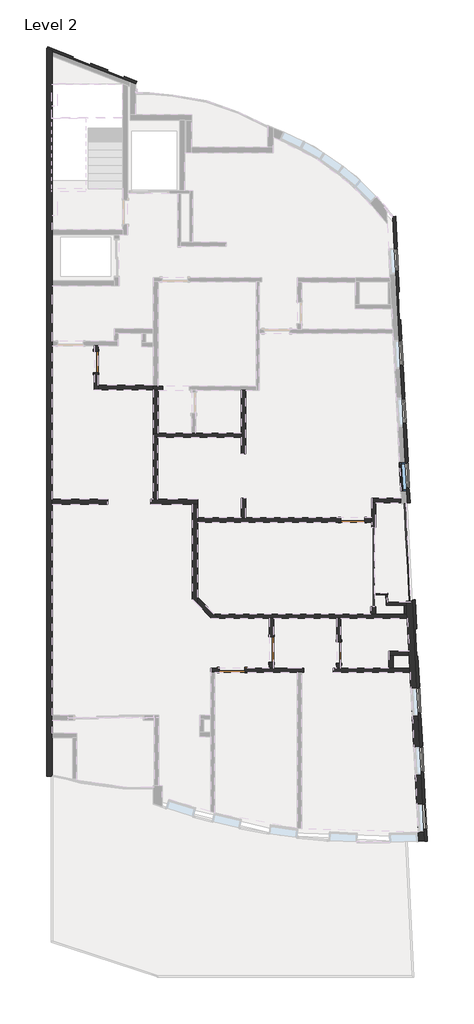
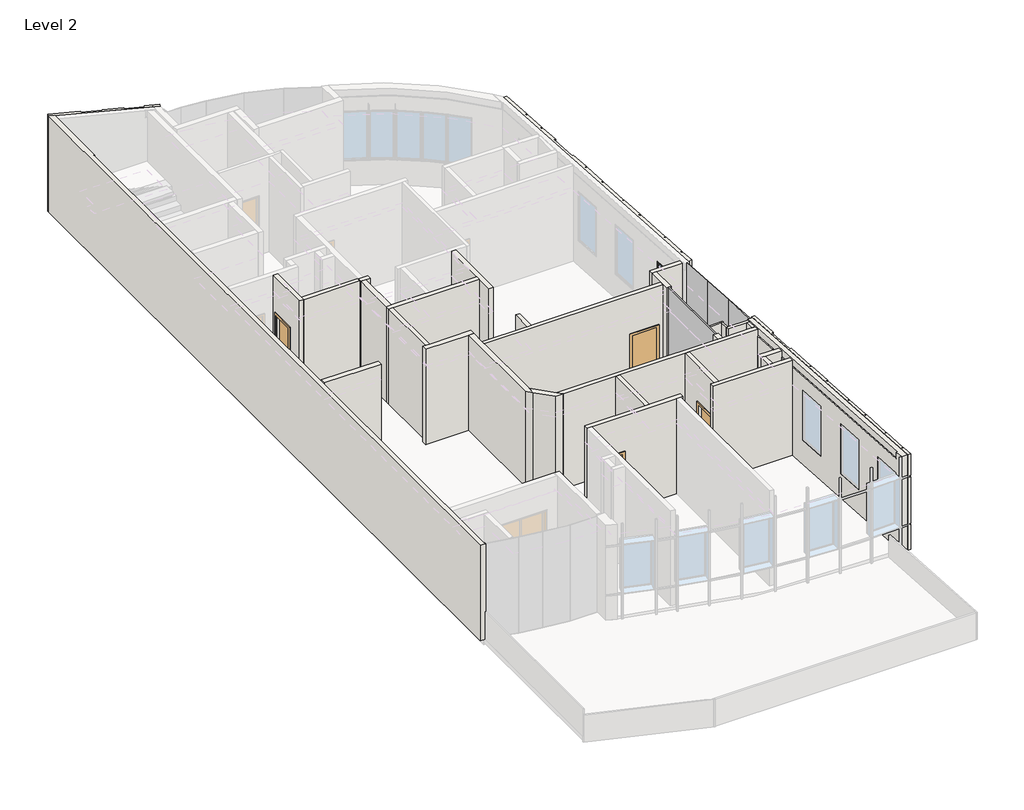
# One storey, part 2 of 5: 31 walls, 5 doors, 4 plates, 1 window.
"""IFC4 building model written with IfcOpenShell, lengths in millimetres."""

from ifc_helpers import new_model, si_unit, frame, origin, place, context, project, spatial, polyline, circle_curve, outline, extrude, faceted_brep, transform, mapped, element, save
from ifc_brep_helpers import plane_surface, cylinder_surface, revolved_surface, advanced_brep
from components import m_single_flush_0762_x_2134mm_8c18b9de, m_single_flush_0762_x_2134mm_1533e4c5, m_single_flush_0864_x_2032mm_5b632350, m_single_flush_0915_x_2134mm_138fd904, system_panel_glazed_de1ac752, system_panel_glazed_2b276406, system_panel_glazed_4e3138d7, wall_0bbe5232, wall_beb20d3e, m_fixed_1000_x_1830mm_2_3397196e

model = new_model("IFC4")

# Units and contexts
model_context = context("Model", 3, world=origin())
ifc_project = project(units=[si_unit("LENGTHUNIT", "METRE", prefix="MILLI")], contexts=[model_context])

# Site, building, storey
site = spatial("IfcSite", under=ifc_project)
building = spatial("IfcBuilding", under=site)
storey = spatial("IfcBuildingStorey", under=building, Name="Level 2", Elevation=8000.0)

# Doors
placement = place(None, origin())
m_single_flush_0762_x_2134mm_shape = m_single_flush_0762_x_2134mm_8c18b9de(model_context)
element("IfcDoor", 1, ObjectType="M_Single-Flush : 0762 x 2134mm", at=placement, inside=storey, context=model_context, shape_type="MappedRepresentation", body=[
    mapped(m_single_flush_0762_x_2134mm_shape, transform((1524.9578776, 3975.8830582, 8000.0), x_axis=(0.0, 1.0, 0.0), y_axis=(-1.0, 0.0, 0.0), z_axis=(0.0, 0.0, 1.0))),
])
m_single_flush_0762_x_2134mm_2_shape = m_single_flush_0762_x_2134mm_1533e4c5(model_context)
element("IfcDoor", 2, ObjectType="M_Single-Flush : 0762 x 2134mm", at=placement, inside=storey, context=model_context, shape_type="MappedRepresentation", body=[
    mapped(m_single_flush_0762_x_2134mm_2_shape, transform((10205.2907737, -6412.7981953, 8000.0), x_axis=(0.0, -1.0, 0.0), y_axis=(1.0, 0.0, 0.0), z_axis=(0.0, 0.0, 1.0))),
])
m_single_flush_0864_x_2032mm_shape = m_single_flush_0864_x_2032mm_5b632350(model_context)
element("IfcDoor", 3, ObjectType="M_Single-Flush : 0864 x 2032mm", at=placement, inside=storey, context=model_context, shape_type="MappedRepresentation", body=[
    mapped(m_single_flush_0864_x_2032mm_shape, transform((10697.9578778, -1678.9547298, 8000.0), x_axis=(1.0, 0.0, 0.0), y_axis=(0.0, 1.0, 0.0), z_axis=(0.0, 0.0, 1.0))),
])
m_single_flush_0915_x_2134mm_shape = m_single_flush_0915_x_2134mm_138fd904(model_context)
element("IfcDoor", 4, ObjectType="M_Single-Flush : 0915 x 2134mm", at=placement, inside=storey, context=model_context, shape_type="MappedRepresentation", body=[
    mapped(m_single_flush_0915_x_2134mm_shape, transform((6387.7907737, -7048.7981953, 8000.0), x_axis=(-1.0, 0.0, 0.0), y_axis=(0.0, -1.0, 0.0), z_axis=(0.0, 0.0, 1.0))),
])
element("IfcDoor", 5, ObjectType="M_Single-Flush : 0915 x 2134mm", at=placement, inside=storey, context=model_context, shape_type="MappedRepresentation", body=[
    mapped(m_single_flush_0915_x_2134mm_shape, transform((7795.2909314, -6316.2981953, 8000.0), x_axis=(0.0, -1.0, 0.0), y_axis=(1.0, 0.0, 0.0), z_axis=(0.0, 0.0, 1.0))),
])

# Plates
system_panel_glazed_shape = system_panel_glazed_de1ac752(model_context)
element("IfcPlate", 6, ObjectType="System Panel : Glazed", at=placement, inside=storey, context=model_context, shape_type="MappedRepresentation", body=[
    mapped(system_panel_glazed_shape, transform((12744.4041239, -4004.5629241, 8000.0), x_axis=(-0.05083502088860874, 0.9987070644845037, 0.0), y_axis=(-0.9987070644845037, -0.05083502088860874, 0.0), z_axis=(0.0, 0.0, 1.0))),
])
element("IfcPlate", 7, ObjectType="System Panel : Glazed", at=placement, inside=storey, context=model_context, shape_type="MappedRepresentation", body=[
    mapped(system_panel_glazed_shape, transform((12685.4354997, -2846.0627293, 8000.0), x_axis=(-0.05083502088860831, 0.9987070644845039, 0.0), y_axis=(-0.9987070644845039, -0.05083502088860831, 0.0), z_axis=(0.0, 0.0, 1.0))),
])
system_panel_glazed_2_shape = system_panel_glazed_2b276406(model_context)
element("IfcPlate", 8, ObjectType="System Panel : Glazed", at=placement, inside=storey, context=model_context, shape_type="MappedRepresentation", body=[
    mapped(system_panel_glazed_2_shape, transform((12626.3225461, -1684.727034, 8000.0), x_axis=(-0.05083502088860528, 0.998707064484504, 0.0), y_axis=(-0.998707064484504, -0.05083502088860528, 0.0), z_axis=(0.0, 0.0, 1.0))),
])
system_panel_glazed_3_shape = system_panel_glazed_4e3138d7(model_context)
element("IfcPlate", 9, ObjectType="System Panel : Glazed", at=placement, inside=storey, context=model_context, shape_type="MappedRepresentation", body=[
    mapped(system_panel_glazed_3_shape, transform((11490.9685725, -3358.899384, 8000.0), x_axis=(0.0, 1.0, 0.0), y_axis=(-1.0, 0.0, 0.0), z_axis=(0.0, 0.0, 1.0))),
])

# Walls
element("IfcWall", 10, ObjectType="Generic - 15cm-granit&gypsum", at=placement, inside=storey, context=model_context, shape_type="Brep", body=[
    faceted_brep([(6719.9578779, 1426.8778064, 8000.0), (5089.9578779, 1426.8778064, 8000.0), (4939.9578779, 1426.8778064, 8000.0), (3749.9578779, 1426.8778064, 8000.0), (3569.9578779, 1426.8778064, 8000.0), (3569.9578779, 1426.8778064, 11500.0), (3749.9578779, 1426.8778064, 11500.0), (4939.9578779, 1426.8778064, 11500.0), (5089.9578779, 1426.8778064, 11500.0), (6719.9578779, 1426.8778064, 11500.0), (6719.9578779, 1276.8778064, 8000.0), (6719.9578779, 1276.8778064, 11500.0), (3719.9578779, 1276.8778064, 11500.0), (3569.9578779, 1276.8778064, 11500.0), (3569.9578779, 1276.8778064, 8000.0), (3719.9578779, 1276.8778064, 8000.0)], [[[0, 1, 2, 3, 4, 5, 6, 7, 8, 9]], [[10, 11, 12, 13, 14, 15]], [[4, 3, 2, 1, 0, 10, 15, 14]], [[9, 8, 7, 6, 5, 13, 12, 11]], [[0, 9, 11, 10]], [[5, 4, 14, 13]]]),
])
element("IfcWall", 11, ObjectType="Generic - 15cm-granit&gypsum", at=placement, inside=storey, context=model_context, shape_type="Brep", body=[
    faceted_brep([(6719.9578779, 2956.8778064, 8000.0), (6719.9578779, 1426.8778064, 8000.0), (6719.9578779, 1276.8778064, 8000.0), (6719.9578779, 696.0452702, 8000.0), (6719.9578779, 696.0452702, 11500.0), (6719.9578779, 1276.8778064, 11500.0), (6719.9578779, 1426.8778064, 11500.0), (6719.9578779, 2956.8778064, 11500.0), (6869.9578779, 2956.8778064, 8000.0), (6869.9578779, 2956.8778064, 11500.0), (6869.9578779, 696.0452702, 11500.0), (6869.9578779, 696.0452702, 8000.0)], [[[0, 1, 2, 3, 4, 5, 6, 7]], [[8, 9, 10, 11]], [[3, 2, 1, 0, 8, 11]], [[4, 3, 11, 10]], [[7, 6, 5, 4, 10, 9]], [[0, 7, 9, 8]]]),
])
element("IfcWall", 12, ObjectType="Generic - 15cm-gypsu-2boith", at=placement, inside=storey, context=model_context, shape_type="Brep", body=[
    faceted_brep([(11349.9578778, -1603.9547298, 8000.0), (11129.9578778, -1603.9547298, 8000.0), (11129.9578778, -1603.9547298, 10032.0), (10265.9578778, -1603.9547298, 10032.0), (10265.9578778, -1603.9547298, 8000.0), (6869.9578779, -1603.9547298, 8000.0), (6719.9578779, -1603.9547298, 8000.0), (5149.9578778, -1603.9547298, 8000.0), (5149.9578778, -1603.9547298, 11500.0), (6719.9578779, -1603.9547298, 11500.0), (6869.9578779, -1603.9547298, 11500.0), (11349.9578778, -1603.9547298, 11500.0), (11129.9578778, -1753.9547298, 10032.0), (11129.9578778, -1753.9547298, 8000.0), (11349.9578778, -1753.9547298, 8000.0), (11349.9578778, -1753.9547298, 11500.0), (5149.9578778, -1753.9547298, 11500.0), (5149.9578778, -1753.9547298, 8000.0), (10265.9578778, -1753.9547298, 8000.0), (10265.9578778, -1753.9547298, 10032.0)], [[[0, 1, 2, 3, 4, 5, 6, 7, 8, 9, 10, 11]], [[12, 13, 14, 15, 16, 17, 18, 19]], [[18, 17, 7, 6, 5, 4]], [[14, 13, 1, 0]], [[11, 10, 9, 8, 16, 15]], [[0, 11, 15, 14]], [[8, 7, 17, 16]], [[2, 1, 13, 12]], [[3, 2, 12, 19]], [[4, 3, 19, 18]]]),
])
element("IfcWall", 13, ObjectType="Generic - 15cm-gypsu-2boith", at=placement, inside=storey, context=model_context, shape_type="Brep", body=[
    faceted_brep([(12423.9334548, -903.8603265, 8000.0), (11379.9578778, -903.8603265, 8000.0), (11379.9578778, -903.8603265, 11500.0), (12423.9334548, -903.8603265, 11500.0), (12423.9334548, -1053.8603265, 8000.0), (12423.9334548, -1053.8603265, 11500.0), (11529.9578778, -1053.8603265, 11500.0), (11379.9578778, -1053.8603265, 11500.0), (11379.9578778, -1053.8603265, 8000.0), (11529.9578778, -1053.8603265, 8000.0)], [[[0, 1, 2, 3]], [[4, 5, 6, 7, 8, 9]], [[1, 0, 4, 9, 8]], [[3, 2, 7, 6, 5]], [[0, 3, 5, 4]], [[2, 1, 8, 7]]]),
])
element("IfcWall", 14, ObjectType="Generic - 15cm-gypsu-2boith", at=placement, inside=storey, context=model_context, shape_type="SweptSolid", body=[
    extrude(outline(polyline([(11379.9578778, -1933.9547288), (11379.9578778, -1053.8603265), (11529.9578778, -1053.8603265), (11529.9578778, -1933.9547288), (11379.9578778, -1933.9547288)])), frame((0.0, 0.0, 8000.0), z_axis=(0.0, 0.0, 1.0), x_axis=(1.0, 0.0, 0.0)), (0.0, 0.0, 1.0), 3500.0),
])
element("IfcWall", 15, ObjectType="Generic - 15cm-gypsu-2boith", at=placement, inside=storey, context=model_context, shape_type="SweptSolid", body=[
    extrude(outline(polyline([(3569.9578779, -933.1221936), (3569.9578779, 1276.8778064), (3719.9578779, 1276.8778064), (3719.9578779, -933.1221936), (3569.9578779, -933.1221936)])), frame((0.0, 0.0, 8000.0), z_axis=(0.0, 0.0, 1.0), x_axis=(1.0, 0.0, 0.0)), (0.0, 0.0, 1.0), 3500.0),
])
element("IfcWall", 16, ObjectType="Generic - 18cm-gypsu-2boith 2", at=placement, inside=storey, context=model_context, shape_type="Brep", body=[
    faceted_brep([(5149.9578778, -933.1221936, 8000.0), (3719.9578779, -933.1221936, 8000.0), (3569.9578779, -933.1221936, 8000.0), (3473.9578779, -933.1221936, 8000.0), (3473.9578779, -933.1221936, 11500.0), (3569.9578779, -933.1221936, 11500.0), (3719.9578779, -933.1221936, 11500.0), (5149.9578778, -933.1221936, 11500.0), (5149.9578778, -1113.1221936, 8000.0), (5149.9578778, -1113.1221936, 11500.0), (4969.9578778, -1113.1221936, 11500.0), (3473.9578779, -1113.1221936, 11500.0), (3473.9578779, -1113.1221936, 8000.0), (4969.9578778, -1113.1221936, 8000.0)], [[[0, 1, 2, 3, 4, 5, 6, 7]], [[8, 9, 10, 11, 12, 13]], [[3, 2, 1, 0, 8, 13, 12]], [[4, 3, 12, 11]], [[7, 6, 5, 4, 11, 10, 9]], [[0, 7, 9, 8]]]),
])
element("IfcWall", 17, ObjectType="Generic - 18cm-gypsu-2boith 2", at=placement, inside=storey, context=model_context, shape_type="Brep", body=[
    faceted_brep([(4969.9578778, -1113.1221936, 8000.0), (4969.9578778, -4517.9715169, 8000.0), (4969.9578778, -4517.9715169, 11500.0), (4969.9578778, -1113.1221936, 11500.0), (5149.9578778, -1113.1221936, 8000.0), (5149.9578778, -1113.1221936, 11500.0), (5149.9578778, -1603.9547298, 11500.0), (5149.9578778, -1753.9547298, 11500.0), (5149.9578778, -4443.9569428, 11500.0), (5149.9578778, -4699.8400417, 11500.0), (5149.9578778, -4699.8400417, 8000.0), (5149.9578778, -4443.9569428, 8000.0), (5149.9578778, -1753.9547298, 8000.0), (5149.9578778, -1603.9547298, 8000.0)], [[[0, 1, 2, 3]], [[4, 5, 6, 7, 8, 9, 10, 11, 12, 13]], [[1, 0, 4, 13, 12, 11, 10]], [[3, 2, 9, 8, 7, 6, 5]], [[2, 1, 10, 9]], [[0, 3, 5, 4]]]),
])
element("IfcWall", 18, ObjectType="Generic - 18cm-gypsu-2boith 2", at=placement, inside=storey, context=model_context, shape_type="Brep", body=[
    faceted_brep([(5149.9578778, -4699.8400417, 8000.0), (5643.7897147, -5198.7981953, 8000.0), (5643.7897147, -5198.7981953, 11500.0), (5149.9578778, -4699.8400417, 11500.0), (5149.9578778, -4443.9569428, 8000.0), (5149.9578778, -4443.9569428, 11500.0), (5748.5849662, -5048.7981953, 11500.0), (5897.04386, -5198.7981953, 11500.0), (5897.04386, -5198.7981953, 8000.0), (5748.5849662, -5048.7981953, 8000.0)], [[[0, 1, 2, 3]], [[4, 5, 6, 7, 8, 9]], [[1, 0, 4, 9, 8]], [[3, 2, 7, 6, 5]], [[0, 3, 5, 4]], [[2, 1, 8, 7]]]),
])
element("IfcWall", 19, ObjectType="Generic - 15cm-granit&gypsum", at=placement, inside=storey, context=model_context, shape_type="Brep", body=[
    faceted_brep([(12647.2976465, -5048.7981953, 8000.0), (12641.1322496, -5048.7981953, 8000.0), (12541.1322496, -5048.7981953, 8000.0), (11529.9578778, -5048.7981953, 8000.0), (11349.9578778, -5048.7981953, 8000.0), (5748.5849662, -5048.7981953, 8000.0), (5748.5849662, -5048.7981953, 11500.0), (11349.9578778, -5048.7981953, 11500.0), (11529.9578778, -5048.7981953, 11500.0), (12541.1322496, -5048.7981953, 11500.0), (12641.1322496, -5048.7981953, 11500.0), (12647.2976465, -5048.7981953, 11500.0), (12654.9327714, -5198.7981953, 8000.0), (12654.9327714, -5198.7981953, 11500.0), (10280.2907737, -5198.7981953, 11500.0), (10130.2907737, -5198.7981953, 11500.0), (7870.2909314, -5198.7981953, 11500.0), (7720.2909314, -5198.7981953, 11500.0), (5897.04386, -5198.7981953, 11500.0), (5897.04386, -5198.7981953, 8000.0), (7720.2909314, -5198.7981953, 8000.0), (7870.2909314, -5198.7981953, 8000.0), (10130.2907737, -5198.7981953, 8000.0), (10280.2907737, -5198.7981953, 8000.0)], [[[0, 1, 2, 3, 4, 5, 6, 7, 8, 9, 10, 11]], [[12, 13, 14, 15, 16, 17, 18, 19, 20, 21, 22, 23]], [[5, 4, 3, 2, 1, 0, 12, 23, 22, 21, 20, 19]], [[11, 10, 9, 8, 7, 6, 18, 17, 16, 15, 14, 13]], [[6, 5, 19, 18]], [[0, 11, 13, 12]]]),
])
element("IfcWall", 20, ObjectType="Generic - 15cm-gypsu-2boith", at=placement, inside=storey, context=model_context, shape_type="SweptSolid", body=[
    extrude(outline(polyline([(-6773.7981953, 10134.0), (-6773.7981953, 8000.0), (-6973.7981953, 8000.0), (-6973.7981953, 11500.0), (-5198.7981953, 11500.0), (-5198.7981953, 8000.0), (-5858.7981953, 8000.0), (-5858.7981953, 10134.0), (-6773.7981953, 10134.0)])), frame((7720.2909314, 0.0, 0.0), z_axis=(1.0, 0.0, 0.0), x_axis=(0.0, 1.0, 0.0)), (0.0, 0.0, 1.0), 150.0),
])
element("IfcWall", 21, ObjectType="Generic - 15cm-granit&gypsum", at=placement, inside=storey, context=model_context, shape_type="Brep", body=[
    faceted_brep([(12745.2817489, -6973.7981953, 8000.0), (12147.4732011, -6973.7981953, 8000.0), (11997.4732011, -6973.7981953, 8000.0), (10280.2907737, -6973.7981953, 8000.0), (10130.2907737, -6973.7981953, 8000.0), (10005.6168737, -6973.7981953, 8000.0), (10005.6168737, -6973.7981953, 11500.0), (10130.2907737, -6973.7981953, 11500.0), (10280.2907737, -6973.7981953, 11500.0), (11997.4732011, -6973.7981953, 11500.0), (12147.4732011, -6973.7981953, 11500.0), (12745.2817489, -6973.7981953, 11500.0), (12752.9168737, -7123.7981953, 8000.0), (12752.9168737, -7123.7981953, 11500.0), (10005.6168737, -7123.7981953, 11500.0), (10005.6168737, -7123.7981953, 8000.0)], [[[0, 1, 2, 3, 4, 5, 6, 7, 8, 9, 10, 11]], [[12, 13, 14, 15]], [[5, 4, 3, 2, 1, 0, 12, 15]], [[6, 5, 15, 14]], [[11, 10, 9, 8, 7, 6, 14, 13]], [[0, 11, 13, 12]]]),
])
element("IfcWall", 22, ObjectType="Generic - 15cm-gypsu-2boith", at=placement, inside=storey, context=model_context, shape_type="Brep", body=[
    faceted_brep([(12714.7412494, -6373.7981953, 8000.0), (11997.4732011, -6373.7981953, 8000.0), (11997.4732011, -6373.7981953, 11500.0), (12714.7412494, -6373.7981953, 11500.0), (12722.3763743, -6523.7981953, 8000.0), (12722.3763743, -6523.7981953, 11500.0), (12147.4732011, -6523.7981953, 11500.0), (11997.4732011, -6523.7981953, 11500.0), (11997.4732011, -6523.7981953, 8000.0), (12147.4732011, -6523.7981953, 8000.0)], [[[0, 1, 2, 3]], [[4, 5, 6, 7, 8, 9]], [[1, 0, 4, 9, 8]], [[3, 2, 7, 6, 5]], [[0, 3, 5, 4]], [[2, 1, 8, 7]]]),
])
element("IfcWall", 23, ObjectType="Generic - 15cm-gypsu-2boith", at=placement, inside=storey, context=model_context, shape_type="SweptSolid", body=[
    extrude(outline(polyline([(11997.4732011, -6973.7981953), (11997.4732011, -6523.7981953), (12147.4732011, -6523.7981953), (12147.4732011, -6973.7981953), (11997.4732011, -6973.7981953)])), frame((0.0, 0.0, 8000.0), z_axis=(0.0, 0.0, 1.0), x_axis=(1.0, 0.0, 0.0)), (0.0, 0.0, 1.0), 3500.0),
])
element("IfcWall", 24, ObjectType="Generic - 10cm-gypsu-2boith", at=placement, inside=storey, context=model_context, shape_type="Brep", body=[
    faceted_brep([(11904.953185, -4724.0941461, 8000.0), (12541.1322496, -4725.6672919, 8000.0), (12641.1322496, -4725.9145722, 8000.0), (12641.1322496, -4725.9145722, 11500.0), (12541.1322496, -4725.6672919, 11500.0), (11904.953185, -4724.0941461, 11500.0), (11899.8624455, -4624.081252, 8000.0), (11899.8624455, -4624.081252, 11500.0), (11949.9334783, -4624.2050678, 11500.0), (12641.1322496, -4625.9142665, 11500.0), (12641.1322496, -4625.9142665, 8000.0), (11949.9334783, -4624.2050678, 8000.0)], [[[0, 1, 2, 3, 4, 5]], [[6, 7, 8, 9, 10, 11]], [[2, 1, 0, 6, 11, 10]], [[5, 4, 3, 9, 8, 7]], [[3, 2, 10, 9]], [[0, 5, 7, 6]]]),
])
element("IfcWall", 25, ObjectType="Generic - 10cm-gypsu-2boith", at=placement, inside=storey, context=model_context, shape_type="Brep", body=[
    faceted_brep([(12641.1322496, -5048.7981953, 8000.0), (12641.1322496, -4927.672536, 8000.0), (12641.1322496, -4725.9145722, 8000.0), (12641.1322496, -4725.9145722, 11259.0), (12641.1322496, -4725.9145722, 11500.0), (12641.1322496, -5048.7981953, 11500.0), (12541.1322496, -5048.7981953, 8000.0), (12541.1322496, -5048.7981953, 11500.0), (12541.1322496, -4725.6672919, 11500.0), (12541.1322496, -4725.6672919, 8000.0), (12630.8613086, -4725.8891742, 8000.0)], [[[0, 1, 2, 3, 4, 5]], [[6, 7, 8, 9]], [[2, 1, 0, 6, 9, 10]], [[5, 4, 8, 7]], [[4, 3, 2, 10, 9, 8]], [[0, 5, 7, 6]]]),
])
element("IfcWall", 26, ObjectType="Antick", at=placement, inside=storey, context=model_context, shape_type="SweptSolid", body=[
    extrude(outline(polyline([(11899.8624455, -4624.081252), (11885.9208288, -4350.1836358), (11935.856182, -4347.6418848), (11949.9334783, -4624.2050678), (11899.8624455, -4624.081252)])), frame((0.0, 0.0, 8000.0), z_axis=(0.0, 0.0, 1.0), x_axis=(1.0, 0.0, 0.0)), (0.0, 0.0, 1.0), 3500.0),
])
element("IfcWall", 27, ObjectType="Antick", at=placement, inside=storey, context=model_context, shape_type="Brep", body=[
    faceted_brep([(11506.4121443, -4369.5009438, 8000.0), (11885.9208288, -4350.1836358, 8000.0), (11935.856182, -4347.6418848, 8000.0), (11955.8303233, -4346.6251844, 8000.0), (11955.8303233, -4346.6251844, 11500.0), (11935.856182, -4347.6418848, 11500.0), (11885.9208288, -4350.1836358, 11500.0), (11506.4121443, -4369.5009438, 11500.0), (11503.8703933, -4319.5655905, 8000.0), (11503.8703933, -4319.5655905, 11500.0), (11953.2885723, -4296.6898311, 11500.0), (11953.2885723, -4296.6898311, 8000.0)], [[[0, 1, 2, 3, 4, 5, 6, 7]], [[8, 9, 10, 11]], [[3, 2, 1, 0, 8, 11]], [[4, 3, 11, 10]], [[7, 6, 5, 4, 10, 9]], [[0, 7, 9, 8]]]),
])
element("IfcWall", 28, ObjectType="Generic - 18cm-gypsu-2boith 2", at=placement, inside=storey, context=model_context, shape_type="SweptSolid", body=[
    extrude(outline(polyline([(11529.9578778, -4783.8440392), (11529.9578778, -5048.7981953), (11349.9578778, -5048.7981953), (11349.9578778, -4783.8440392), (11529.9578778, -4783.8440392)])), frame((0.0, 0.0, 8000.0), z_axis=(0.0, 0.0, 1.0), x_axis=(1.0, 0.0, 0.0)), (0.0, 0.0, 1.0), 3500.0),
])
element("IfcWall", 29, ObjectType="Generic - 15cm-granit&gypsum", at=placement, inside=storey, context=model_context, shape_type="Brep", body=[
    faceted_brep([(1599.9578776, 4356.8830582, 10134.0), (1599.9578776, 4356.8830582, 8000.0), (1599.9578776, 4556.8830582, 8000.0), (1599.9578776, 4556.8830582, 11500.0), (1599.9578776, 3136.8778064, 11500.0), (1599.9578776, 2986.8778064, 11500.0), (1599.9578776, 2986.8778064, 8000.0), (1599.9578776, 3136.8778064, 8000.0), (1599.9578776, 3594.8830582, 8000.0), (1599.9578776, 3594.8830582, 10134.0), (1449.9578776, 4556.8830582, 8000.0), (1449.9578776, 4356.8830582, 8000.0), (1449.9578776, 4356.8830582, 10134.0), (1449.9578776, 3594.8830582, 10134.0), (1449.9578776, 3594.8830582, 8000.0), (1449.9578776, 2986.8778064, 8000.0), (1449.9578776, 2986.8778064, 11500.0), (1449.9578776, 4556.8830582, 11500.0)], [[[0, 1, 2, 3, 4, 5, 6, 7, 8, 9]], [[10, 11, 12, 13, 14, 15, 16, 17]], [[2, 1, 11, 10]], [[8, 7, 6, 15, 14]], [[5, 4, 3, 17, 16]], [[3, 2, 10, 17]], [[6, 5, 16, 15]], [[12, 11, 1, 0]], [[13, 12, 0, 9]], [[14, 13, 9, 8]]]),
])
element("IfcWall", 30, ObjectType="Generic - 18cm-gypsu-2boith 2", at=placement, inside=storey, context=model_context, shape_type="SweptSolid", body=[
    extrude(outline(polyline([(3569.9578779, 1426.8778064), (3569.9578779, 2956.8778064), (3749.9578779, 2956.8778064), (3749.9578779, 1426.8778064), (3569.9578779, 1426.8778064)])), frame((0.0, 0.0, 8000.0), z_axis=(0.0, 0.0, 1.0), x_axis=(1.0, 0.0, 0.0)), (0.0, 0.0, 1.0), 3500.0),
])
element("IfcWall", 31, ObjectType="Generic - 15cm-granit&gypsum", at=placement, inside=storey, context=model_context, shape_type="SweptSolid", body=[
    extrude(outline(polyline([(1599.9578776, 3136.8778064), (3549.9578779, 3136.8778064), (3549.9578779, 2986.8778064), (1599.9578776, 2986.8778064), (1599.9578776, 3136.8778064)])), frame((0.0, 0.0, 8000.0), z_axis=(0.0, 0.0, 1.0), x_axis=(1.0, 0.0, 0.0)), (0.0, 0.0, 1.0), 3500.0),
])
element("IfcWall", 32, ObjectType="Generic - 18cm-gypsu-2boith 2", at=placement, inside=storey, context=model_context, shape_type="SweptSolid", body=[
    extrude(outline(polyline([(-50.0421304, -933.1221936), (1933.9578781, -933.1221936), (1933.9578781, -1113.1221936), (-50.0421304, -1113.1221936), (-50.0421304, -933.1221936)])), frame((0.0, 0.0, 8000.0), z_axis=(0.0, 0.0, 1.0), x_axis=(1.0, 0.0, 0.0)), (0.0, 0.0, 1.0), 3500.0),
])
element("IfcWall", 33, ObjectType="Generic - 15cm-granit&gypsum", at=placement, inside=storey, context=model_context, shape_type="Brep", body=[
    faceted_brep([(5930.2907737, -6973.7981953, 10134.0), (5930.2907737, -6973.7981953, 8000.0), (5620.2907737, -6973.7981953, 8000.0), (5620.2907737, -6973.7981953, 11500.0), (7720.2909314, -6973.7981953, 11500.0), (7870.2909314, -6973.7981953, 11500.0), (8947.5168737, -6973.7981953, 11500.0), (8947.5168737, -6973.7981953, 8000.0), (7870.2909314, -6973.7981953, 8000.0), (7720.2909314, -6973.7981953, 8000.0), (6845.2907737, -6973.7981953, 8000.0), (6845.2907737, -6973.7981953, 10134.0), (5620.2907737, -7123.7981953, 8000.0), (5770.2907737, -7123.7981953, 8000.0), (5930.2907737, -7123.7981953, 8000.0), (5930.2907737, -7123.7981953, 10134.0), (6845.2907737, -7123.7981953, 10134.0), (6845.2907737, -7123.7981953, 8000.0), (8720.2907737, -7123.7981953, 8000.0), (8870.2907737, -7123.7981953, 8000.0), (8947.5168737, -7123.7981953, 8000.0), (8947.5168737, -7123.7981953, 11500.0), (8870.2907737, -7123.7981953, 11500.0), (8720.2907737, -7123.7981953, 11500.0), (5770.2907737, -7123.7981953, 11500.0), (5620.2907737, -7123.7981953, 11500.0)], [[[0, 1, 2, 3, 4, 5, 6, 7, 8, 9, 10, 11]], [[12, 13, 14, 15, 16, 17, 18, 19, 20, 21, 22, 23, 24, 25]], [[2, 1, 14, 13, 12]], [[10, 9, 8, 7, 20, 19, 18, 17]], [[6, 5, 4, 3, 25, 24, 23, 22, 21]], [[7, 6, 21, 20]], [[3, 2, 12, 25]], [[17, 16, 11, 10]], [[16, 15, 0, 11]], [[15, 14, 1, 0]]]),
])
element("IfcWall", 34, ObjectType="Generic - 15cm-granit&gypsum", at=placement, inside=storey, context=model_context, shape_type="SweptSolid", body=[
    extrude(outline(polyline([(6719.9578779, -1603.9547298), (6719.9578779, -903.9547298), (6869.9578779, -903.9547298), (6869.9578779, -1603.9547298), (6719.9578779, -1603.9547298)])), frame((0.0, 0.0, 8000.0), z_axis=(0.0, 0.0, 1.0), x_axis=(1.0, 0.0, 0.0)), (0.0, 0.0, 1.0), 3500.0),
])
element("IfcWall", 35, ObjectType="Generic - 15cm-granit&gypsum", at=placement, inside=storey, context=model_context, shape_type="Brep", body=[
    faceted_brep([(3899.9578779, 3106.8778064, 8000.0), (3749.9578779, 3106.8778064, 8000.0), (3569.9578779, 3106.8778064, 8000.0), (3569.9578779, 3106.8778064, 11500.0), (3749.9578779, 3106.8778064, 11500.0), (3899.9578779, 3106.8778064, 11500.0), (3899.9578779, 2956.8778064, 8000.0), (3899.9578779, 2956.8778064, 11500.0), (3749.9578779, 2956.8778064, 11500.0), (3569.9578779, 2956.8778064, 11500.0), (3569.9578779, 2956.8778064, 8000.0), (3749.9578779, 2956.8778064, 8000.0)], [[[0, 1, 2, 3, 4, 5]], [[6, 7, 8, 9, 10, 11]], [[2, 1, 0, 6, 11, 10]], [[5, 4, 3, 9, 8, 7]], [[0, 5, 7, 6]], [[3, 2, 10, 9]]]),
])
wall_shape = wall_0bbe5232(model_context)
element("IfcWall", 36, ObjectType="kamposite : kamposite", at=placement, inside=storey, context=model_context, shape_type="MappedRepresentation", body=[
    mapped(wall_shape, transform((-2.0334008, 39.9482826, 2000.0), x_axis=(1.0, 0.0, 0.0), y_axis=(0.0, 1.0, 0.0), z_axis=(0.0, 0.0, 1.0))),
])
wall_2_shape = wall_beb20d3e(model_context)
element("IfcWall", 37, ObjectType="kamposite2 : kamposite2", at=placement, inside=storey, context=model_context, shape_type="MappedRepresentation", body=[
    mapped(wall_2_shape, transform((0.0, 0.0, 2000.0), x_axis=(1.0, 0.0, 0.0), y_axis=(0.0, 1.0, 0.0), z_axis=(0.0, 0.0, 1.0))),
])
element("IfcWall", 38, ObjectType="Generic - 15cm-granit 2", at=placement, inside=storey, context=model_context, shape_type="SweptSolid", body=[
    extrude(outline(polyline([(-6793.7981953, 10134.0), (-6793.7981953, 8000.0), (-6973.7981953, 8000.0), (-6973.7981953, 11500.0), (-5198.7981953, 11500.0), (-5198.7981953, 8000.0), (-6031.7981953, 8000.0), (-6031.7981953, 10134.0), (-6793.7981953, 10134.0)])), frame((10130.2907737, 0.0, 0.0), z_axis=(1.0, 0.0, 0.0), x_axis=(0.0, 1.0, 0.0)), (0.0, 0.0, 1.0), 150.0),
])
element("IfcWall", 39, ObjectType="Generic - 20cm-gypsum", at=placement, inside=storey, context=model_context, shape_type="Brep", body=[
    faceted_brep([(-50.0421304, -10845.40247, 8000.0), (-50.0421304, -9462.1185157, 8000.0), (-50.0421304, -9312.1185157, 8000.0), (-50.0421304, -8842.2362629, 8000.0), (-50.0421304, -8662.2362629, 8000.0), (-50.0421304, -1113.1221936, 8000.0), (-50.0421304, -933.1221936, 8000.0), (-50.0421304, 4556.8830582, 8000.0), (-50.0421304, 4706.8830582, 8000.0), (-50.0421304, 6706.8748838, 8000.0), (-50.0421304, 6886.8748838, 8000.0), (-50.0421304, 8516.8748746, 8000.0), (-50.0421304, 8696.8748746, 8000.0), (-50.0421304, 14901.0479686, 8000.0), (-50.0421304, 15115.5710671, 8000.0), (-50.0421304, 15115.5710671, 11500.0), (-50.0421304, 14901.0479686, 11500.0), (-50.0421304, 12698.7408751, 11500.0), (-50.0421304, 12698.7408751, 11259.0), (-50.0421304, -10787.9093736, 11259.0), (-50.0421304, -10787.9093736, 11500.0), (-50.0421304, -10845.40247, 11500.0), (-250.0421304, 15193.1607555, 8000.0), (-250.0421304, -10845.40247, 8000.0), (-250.0421304, -10845.40247, 11500.0), (-250.0421304, 15193.1607555, 11500.0), (-80.0000039, -10845.40247, 8000.0), (-80.0421304, -10781.5326767, 11500.0), (-80.0421304, 12698.7408751, 11500.0), (-80.0421304, 12698.7408751, 11259.0), (-80.0421304, -10781.5326767, 11259.0)], [[[0, 1, 2, 3, 4, 5, 6, 7, 8, 9, 10, 11, 12, 13, 14, 15, 16, 17, 18, 19, 20, 21]], [[22, 23, 24, 25]], [[14, 13, 12, 11, 10, 9, 8, 7, 6, 5, 4, 3, 2, 1, 0, 26, 23, 22]], [[25, 24, 21, 20, 27, 28, 17, 16, 15]], [[0, 21, 24, 23, 26]], [[15, 14, 22, 25]], [[29, 30, 19, 18]], [[30, 27, 20, 19]], [[30, 29, 28, 27]], [[28, 29, 18, 17]]]),
])
element("IfcWall", 40, ObjectType="Generic - 20cm-gypsum", at=placement, inside=storey, context=model_context, shape_type="AdvancedBrep", body=[
    advanced_brep(
    [(12624.0178131, -4591.441561, 8000.0), (12630.8613086, -4725.8891742, 8000.0), (12630.8613086, -4725.8891742, 11259.0), (12624.0178131, -4591.441561, 11259.0), (12641.1322496, -4927.672536, 8000.0), (12647.2976465, -5048.7981953, 8000.0), (12654.9327714, -5198.7981953, 8000.0), (12714.7412494, -6373.7981953, 8000.0), (12722.3763743, -6523.7981953, 8000.0), (12745.2817489, -6973.7981953, 8000.0), (12752.9168737, -7123.7981953, 8000.0), (13044.0399551, -12843.2151043, 8000.0), (13060.3079076, -13162.8160173, 8000.0), (13060.3079076, -13162.8160173, 8901.1018524), (13059.0369746, -13137.84721, 8901.1018524), (13059.0369746, -13137.84721, 8951.1018524), (13060.3079076, -13162.8160173, 8951.1018524), (13060.3079076, -13162.8160173, 10695.0), (13059.0369746, -13137.84721, 10695.0), (13059.0369746, -13137.84721, 10745.0), (13060.3079076, -13162.8160173, 10745.0), (13060.3079076, -13162.8160173, 11500.0), (13045.5650765, -12873.1777067, 11500.0), (13045.5650765, -12873.1777067, 11259.0), (13044.0399551, -12843.2151043, 11259.0), (12641.1322496, -4927.672536, 11259.0), (13044.1204917, -12844.7973291, 8900.0), (12993.2854708, -11846.0902646, 8900.0), (12993.2854708, -11846.0902646, 10730.0), (13044.1204917, -12844.7973291, 10730.0), (12939.9086989, -10797.4478469, 8900.0), (12889.073678, -9798.7407824, 8900.0), (12889.073678, -9798.7407824, 10730.0), (12939.9086989, -10797.4478469, 10730.0), (12832.6468048, -8690.1759409, 8900.0), (12781.8117839, -7691.4688764, 8900.0), (12781.8117839, -7691.4688764, 10730.0), (12832.6468048, -8690.1759409, 10730.0), (12823.759226, -4581.2745568, 11500.0), (13259.9103282, -13149.9183632, 11500.0), (13259.9103282, -13149.9183632, 10745.0), (13258.6392504, -13124.9467139, 10745.0), (13258.6392504, -13124.9467139, 10695.0), (13259.9103282, -13149.9183632, 10695.0), (13259.9103282, -13149.9183632, 8951.1018524), (13258.6392504, -13124.9467139, 8951.1018524), (13258.6392504, -13124.9467139, 8901.1018524), (13259.9103282, -13149.9183632, 8901.1018524), (13259.9103282, -13149.9183632, 8000.0), (12823.759226, -4581.2745568, 8000.0), (13193.0268837, -11835.9232605, 8900.0), (13243.8619046, -12834.6303249, 8900.0), (13243.8619046, -12834.6303249, 10730.0), (13193.0268837, -11835.9232605, 10730.0), (13088.8150909, -9788.5737783, 8900.0), (13139.6501118, -10787.2808427, 8900.0), (13139.6501118, -10787.2808427, 10730.0), (13088.8150909, -9788.5737783, 10730.0), (12981.5531968, -7681.3018722, 8900.0), (13032.3882177, -8680.0089367, 8900.0), (13032.3882177, -8680.0089367, 10730.0), (12981.5531968, -7681.3018722, 10730.0), (12653.9790251, -4589.9165104, 11500.0), (13075.5106422, -12871.3452698, 11500.0), (12641.1322496, -4725.9145722, 8000.0), (12653.9790251, -4589.9165104, 11259.0), (12641.1322496, -4725.9145722, 11259.0), (13075.5106422, -12871.3452698, 11259.0)],
    [
        (0, 1),
        (1, 2),
        (2, 3),
        (3, 0),
        (4, 5),
        (5, 6),
        (6, 7),
        (7, 8),
        (8, 9),
        (9, 10),
        (10, 11),
        (11, 12),
        (12, 13),
        (13, 14),
        (14, 15),
        (15, 16),
        (16, 17),
        (17, 18),
        (18, 19),
        (19, 20),
        (20, 21),
        (21, 22),
        (22, 23),
        (23, 24),
        (24, 25),
        (25, 4),
        (26, 27),
        (27, 28),
        (28, 29),
        (29, 26),
        (30, 31),
        (31, 32),
        (32, 33),
        (33, 30),
        (34, 35),
        (35, 36),
        (36, 37),
        (37, 34),
        (38, 39),
        (39, 40),
        (40, 41),
        (41, 42),
        (42, 43),
        (43, 44),
        (44, 45),
        (45, 46),
        (46, 47),
        (47, 48),
        (48, 49),
        (49, 38),
        (50, 51),
        (51, 52),
        (52, 53),
        (53, 50),
        (54, 55),
        (55, 56),
        (56, 57),
        (57, 54),
        (58, 59),
        (59, 60),
        (60, 61),
        (61, 58),
        (38, 62),
        (62, 63),
        (63, 22, circle_curve(frame((11609.3245394, 10843.3737526, 11500.0), z_axis=(0.0, 0.0, -1.0), x_axis=(1.0, 0.0, 0.0)), 23760.0)),
        (21, 39, circle_curve(frame((11609.3245394, 10843.3737526, 11500.0), z_axis=(0.0, 0.0, 1.0), x_axis=(-0.33468074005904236, -0.942331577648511, 0.0)), 24050.0)),
        (48, 12, circle_curve(frame((11609.3245394, 10843.3737526, 8000.0), z_axis=(0.0, 0.0, -1.0), x_axis=(-0.33468074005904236, -0.942331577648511, 0.0)), 24050.0)),
        (4, 64),
        (64, 1),
        (0, 49),
        (3, 65),
        (65, 62),
        (20, 40, circle_curve(frame((11609.3245394, 10843.3737526, 10745.0), z_axis=(0.0, 0.0, 1.0), x_axis=(-0.33468074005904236, -0.942331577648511, 0.0)), 24050.0)),
        (47, 13, circle_curve(frame((11609.3245394, 10843.3737526, 8901.1018524), z_axis=(0.0, 0.0, -1.0), x_axis=(-0.33468074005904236, -0.942331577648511, 0.0)), 24050.0)),
        (16, 44, circle_curve(frame((11609.3245394, 10843.3737526, 8951.1018524), z_axis=(0.0, 0.0, 1.0), x_axis=(-0.33468074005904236, -0.942331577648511, 0.0)), 24050.0)),
        (43, 17, circle_curve(frame((11609.3245394, 10843.3737526, 10695.0), z_axis=(0.0, 0.0, -1.0), x_axis=(-0.33468074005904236, -0.942331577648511, 0.0)), 24050.0)),
        (50, 27),
        (26, 51),
        (53, 28),
        (52, 29),
        (54, 31),
        (30, 55),
        (57, 32),
        (56, 33),
        (58, 35),
        (34, 59),
        (61, 36),
        (60, 37),
        (25, 66),
        (66, 64),
        (66, 2),
        (15, 45, circle_curve(frame((11609.3245394, 10843.3737526, 8951.1018524), z_axis=(0.0, 0.0, 1.0), x_axis=(0.06863142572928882, -0.9976420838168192, 0.0)), 24025.0)),
        (46, 14, circle_curve(frame((11609.3245394, 10843.3737526, 8901.1018524), z_axis=(0.0, 0.0, -1.0), x_axis=(0.06863142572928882, -0.9976420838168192, 0.0)), 24025.0)),
        (19, 41, circle_curve(frame((11609.3245394, 10843.3737526, 10745.0), z_axis=(0.0, 0.0, 1.0), x_axis=(0.06863142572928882, -0.9976420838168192, 0.0)), 24025.0)),
        (42, 18, circle_curve(frame((11609.3245394, 10843.3737526, 10695.0), z_axis=(0.0, 0.0, -1.0), x_axis=(0.06863142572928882, -0.9976420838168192, 0.0)), 24025.0)),
        (67, 65),
        (23, 67, circle_curve(frame((11609.3245394, 10843.3737526, 11259.0), z_axis=(0.0, 0.0, 1.0), x_axis=(1.0, 0.0, 0.0)), 23760.0)),
        (67, 63),
    ],
    [
        plane_surface(frame((13052.1146146, -13001.8502213, 11500.0), z_axis=(-0.9987070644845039, -0.05083502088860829, 0.0), x_axis=(-0.05083502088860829, 0.9987070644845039, 0.0))),
        plane_surface(frame((13251.8560275, -12991.6832171, 11500.0), z_axis=(0.9987070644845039, 0.05083502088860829, 0.0), x_axis=(0.05083502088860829, -0.9987070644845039, 0.0))),
        plane_surface(frame((13052.1146146, -13001.8502213, 11500.0), z_axis=(0.0, 0.0, 1.0), x_axis=(0.998707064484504, 0.050835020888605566, 0.0))),
        plane_surface(frame((12624.0178131, -4591.441561, 8000.0), z_axis=(0.0, 0.0, -1.0), x_axis=(0.998707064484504, 0.050835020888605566, 0.0))),
        plane_surface(frame((12624.0178131, -4591.441561, 11500.0), z_axis=(-0.050835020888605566, 0.998707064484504, 0.0), x_axis=(0.998707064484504, 0.050835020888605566, 0.0))),
        cylinder_surface(frame((11609.3245394, 10843.3737526, 8000.0), z_axis=(0.0, 0.0, 1.0), x_axis=(-0.33468074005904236, -0.942331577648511, 0.0)), 24050.0),
        plane_surface(frame((13193.0268837, -11835.9232605, 8900.0), z_axis=(0.0, 0.0, 1.0), x_axis=(-0.998707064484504, -0.050835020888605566, 0.0))),
        plane_surface(frame((13193.0268837, -11835.9232605, 10730.0), z_axis=(0.050835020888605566, -0.998707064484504, 0.0), x_axis=(-0.998707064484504, -0.050835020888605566, 0.0))),
        plane_surface(frame((13243.8619046, -12834.6303249, 10730.0), z_axis=(0.0, 0.0, -1.0), x_axis=(-0.998707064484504, -0.050835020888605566, 0.0))),
        plane_surface(frame((13243.8619046, -12834.6303249, 8900.0), z_axis=(-0.050835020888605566, 0.998707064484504, 0.0), x_axis=(-0.998707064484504, -0.050835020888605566, 0.0))),
        plane_surface(frame((13088.8150909, -9788.5737783, 8900.0), z_axis=(0.0, 0.0, 1.0), x_axis=(-0.998707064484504, -0.050835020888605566, 0.0))),
        plane_surface(frame((13088.8150909, -9788.5737783, 10730.0), z_axis=(0.050835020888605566, -0.998707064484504, 0.0), x_axis=(-0.998707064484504, -0.050835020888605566, 0.0))),
        plane_surface(frame((13139.6501118, -10787.2808427, 10730.0), z_axis=(0.0, 0.0, -1.0), x_axis=(-0.998707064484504, -0.050835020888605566, 0.0))),
        plane_surface(frame((13139.6501118, -10787.2808427, 8900.0), z_axis=(-0.050835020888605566, 0.998707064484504, 0.0), x_axis=(-0.998707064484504, -0.050835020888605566, 0.0))),
        plane_surface(frame((12981.5531968, -7681.3018722, 8900.0), z_axis=(0.0, 0.0, 1.0), x_axis=(-0.998707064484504, -0.050835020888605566, 0.0))),
        plane_surface(frame((12981.5531968, -7681.3018722, 10730.0), z_axis=(0.050835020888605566, -0.998707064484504, 0.0), x_axis=(-0.998707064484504, -0.050835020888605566, 0.0))),
        plane_surface(frame((13032.3882177, -8680.0089367, 10730.0), z_axis=(0.0, 0.0, -1.0), x_axis=(-0.998707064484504, -0.050835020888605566, 0.0))),
        plane_surface(frame((13032.3882177, -8680.0089367, 8900.0), z_axis=(-0.050835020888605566, 0.998707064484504, 0.0), x_axis=(-0.998707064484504, -0.050835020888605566, 0.0))),
        plane_surface(frame((12641.1322496, -4755.8842521, 8000.0), z_axis=(-1.0, 0.0, 0.0), x_axis=(0.0, 1.0, 0.0))),
        plane_surface(frame((11949.6861987, -4724.204762, 8000.0), z_axis=(-0.002472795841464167, -0.9999969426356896, 0.0), x_axis=(0.9999969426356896, -0.002472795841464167, 0.0))),
        plane_surface(frame((11609.3245394, 10843.3737526, 8951.1018524), z_axis=(0.0, 0.0, -1.0000000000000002), x_axis=(0.06863142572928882, -0.9976420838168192, 0.0))),
        plane_surface(frame((11609.3245394, 10843.3737526, 8901.1018524), z_axis=(0.0, 0.0, 1.0000000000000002), x_axis=(0.06863142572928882, -0.9976420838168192, 0.0))),
        cylinder_surface(frame((11609.3245394, 10843.3737526, 8926.1018524), z_axis=(0.0, 0.0, -1.0), x_axis=(0.06863142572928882, -0.9976420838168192, 0.0)), 24025.0),
        plane_surface(frame((11609.3245394, 10843.3737526, 10745.0), z_axis=(0.0, 0.0, -1.0000000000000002), x_axis=(0.06863142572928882, -0.9976420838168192, 0.0))),
        plane_surface(frame((11609.3245394, 10843.3737526, 10695.0), z_axis=(0.0, 0.0, 1.0000000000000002), x_axis=(0.06863142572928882, -0.9976420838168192, 0.0))),
        cylinder_surface(frame((11609.3245394, 10843.3737526, 10720.0), z_axis=(0.0, 0.0, -1.0), x_axis=(0.06863142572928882, -0.9976420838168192, 0.0)), 24025.0),
        plane_surface(frame((-80.0421304, 14944.8648867, 11259.0), z_axis=(0.0, 0.0, 1.0), x_axis=(0.9323005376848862, -0.36168454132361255, 0.0))),
        plane_surface(frame((12653.9790251, -4589.9165104, 11259.0), z_axis=(-0.9987070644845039, -0.05083502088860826, 0.0), x_axis=(0.0, 0.0, 1.0))),
        revolved_surface(polyline([(35369.3245394, 10843.3737526, 11259.0), (35369.3245394, 10843.3737526, 11500.0)]), (11609.3245394, 10843.3737526, 11500.0), (0.0, 0.0, -1.0)),
    ],
    [
        (0, [[1, 2, 3, 4]]),
        (0, [[5, 6, 7, 8, 9, 10, 11, 12, 13, 14, 15, 16, 17, 18, 19, 20, 21, 22, 23, 24, 25, 26], [27, 28, 29, 30], [31, 32, 33, 34], [35, 36, 37, 38]]),
        (1, [[39, 40, 41, 42, 43, 44, 45, 46, 47, 48, 49, 50], [51, 52, 53, 54], [55, 56, 57, 58], [59, 60, 61, 62]]),
        (2, [[-39, 63, 64, 65, -22, 66]]),
        (3, [[-49, 67, -12, -11, -10, -9, -8, -7, -6, -5, 68, 69, -1, 70]]),
        (4, [[-50, -70, -4, 71, 72, -63]]),
        (5, [[-66, -21, 73, -40]]),
        (5, [[-67, -48, 74, -13]]),
        (5, [[75, -44, 76, -17]]),
        (6, [[-51, 77, -27, 78]]),
        (7, [[-54, 79, -28, -77]]),
        (8, [[-53, 80, -29, -79]]),
        (9, [[-52, -78, -30, -80]]),
        (10, [[-55, 81, -31, 82]]),
        (11, [[-58, 83, -32, -81]]),
        (12, [[-57, 84, -33, -83]]),
        (13, [[-56, -82, -34, -84]]),
        (14, [[-59, 85, -35, 86]]),
        (15, [[-62, 87, -36, -85]]),
        (16, [[-61, 88, -37, -87]]),
        (17, [[-60, -86, -38, -88]]),
        (18, [[-68, -26, 89, 90]]),
        (19, [[-69, -90, 91, -2]]),
        (20, [[92, -45, -75, -16]]),
        (21, [[93, -14, -74, -47]]),
        (22, [[-92, -15, -93, -46]]),
        (23, [[94, -41, -73, -20]]),
        (24, [[95, -18, -76, -43]]),
        (25, [[-94, -19, -95, -42]]),
        (26, [[96, -71, -3, -91, -89, -25, -24, 97]]),
        (27, [[-96, 98, -64, -72]]),
        (28, [[-98, -97, -23, -65]]),
    ],
),
])

# Window
m_fixed_1000_x_1830mm_2_shape = m_fixed_1000_x_1830mm_2_3397196e(model_context)
element("IfcWindow", 41, ObjectType="M_Fixed : 1000 x 1830mm 2", at=placement, inside=storey, context=model_context, shape_type="MappedRepresentation", body=[
    mapped(m_fixed_1000_x_1830mm_2_shape, transform((12510.0987492, -130.5055762, 8595.0), x_axis=(-0.05083502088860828, 0.9987070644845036, 0.0), y_axis=(-0.9987070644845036, -0.05083502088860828, 0.0), z_axis=(0.0, 0.0, 1.0))),
])

save(model, "model.ifc")
